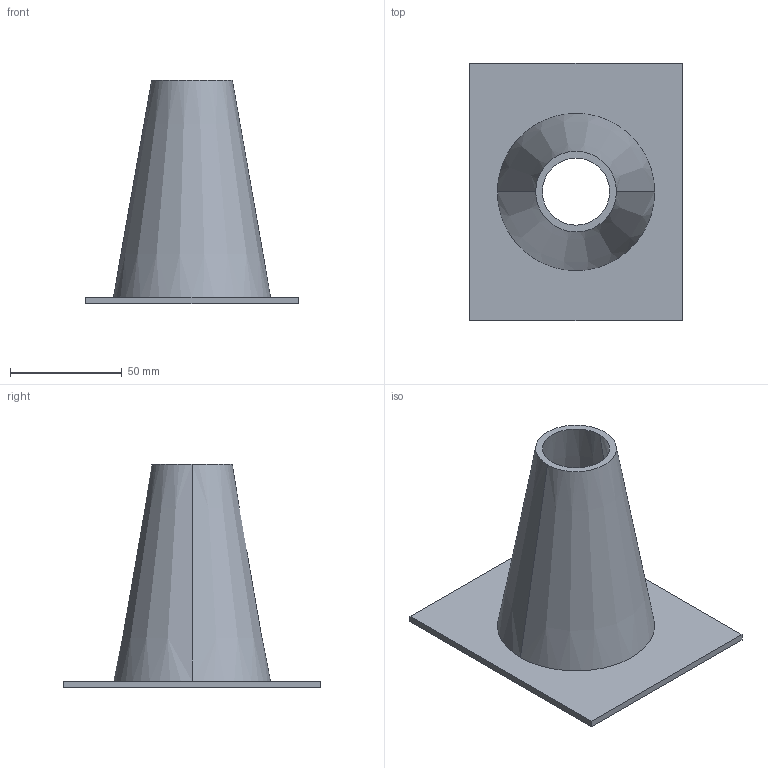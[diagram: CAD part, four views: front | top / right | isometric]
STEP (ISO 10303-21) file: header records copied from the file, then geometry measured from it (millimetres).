
FILE_DESCRIPTION(('CATIA V5 STEP Exchange'),'2;1');
FILE_NAME('C:\_Andres\UNIVERSIDAD\IQS\ASIGNATURAS\DAO\EXF\EXF-15161c\1original\Elvira_Arias_Ej08-ensambla_v5.stp','2016-03-04T21:37:15+00:00',('none'),('none'),'CATIA Version 5 Release 20 SP 1 (IN-10)','CATIA V5 STEP AP203','none');
FILE_SCHEMA(('CONFIG_CONTROL_DESIGN'));
Length unit declared in the file: millimetre
Products named in the file (1): Elvira_Arias_Ej08-ensambla_v5
Bounding box: 95 x 115 x 100 mm (x, y, z)
Volume: 69454.8 mm3; surface area: 47855.2 mm2
Topology: 1 solids, 1 shells, 11 faces, 24 edges, 16 vertices
Faces by surface type: plane 7, cone 4
Entity records: 414 total; most frequent: CARTESIAN_POINT 127, ORIENTED_EDGE 48, DIRECTION 44, EDGE_CURVE 24, AXIS2_PLACEMENT_3D 17, VECTOR 16, LINE 16, VERTEX_POINT 16
